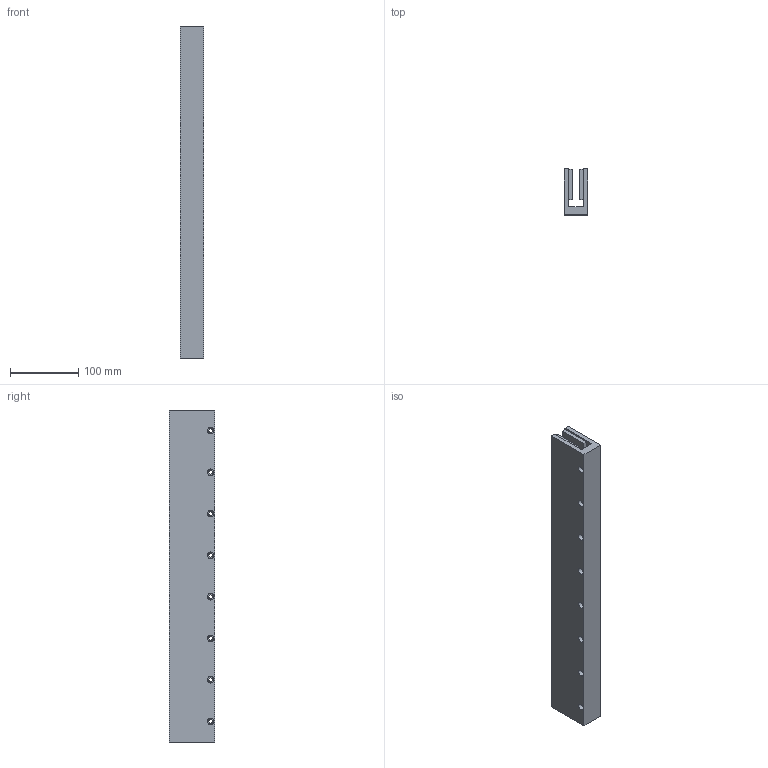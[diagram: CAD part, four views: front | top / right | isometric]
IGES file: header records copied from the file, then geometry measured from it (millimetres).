
Global section: file name: No Iges File Name specified; native system: Autodesk Inventor 2012; preprocessor: AutoDesk Inventor Iges Exporter R2012; author: je17857; date: 20120511.155636; units: inch
Bounding box: 34.29 x 67.31 x 487.43 mm (x, y, z)
Volume: 724879.1 mm3; surface area: 185970.9 mm2
Topology: 1 solids, 1 shells, 210 faces, 480 edges, 320 vertices
Faces by surface type: plane 186, revolution 24
